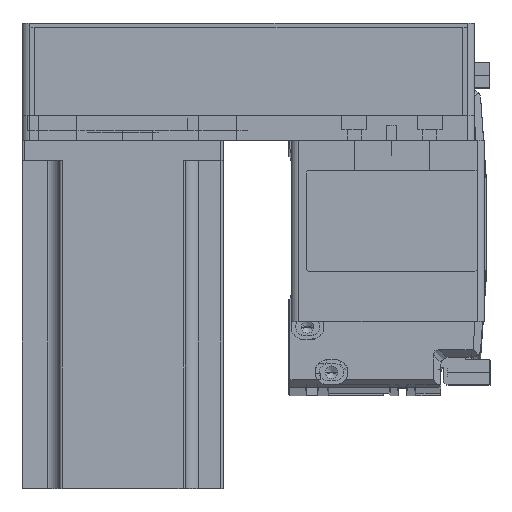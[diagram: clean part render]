
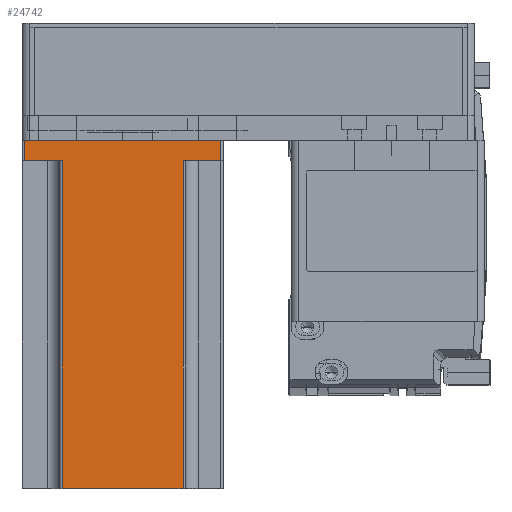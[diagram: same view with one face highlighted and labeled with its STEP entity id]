
A CAD part, top view. The second image highlights one B-rep face of the part: STEP entity #24742.
In plain terms, the highlighted planar face has unit normal (0, 0, 1) as drawn and (0, 1, 0) by its records, which use the part's own axes.
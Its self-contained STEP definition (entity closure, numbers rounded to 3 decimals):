
#1165 = VERTEX_POINT ( 'NONE', #32717 ) ;
#2403 = VERTEX_POINT ( 'NONE', #16214 ) ;
#2452 = DIRECTION ( 'NONE',  ( 0., 0., 1. ) ) ;
#2682 = ORIENTED_EDGE ( 'NONE', *, *, #18038, .F. ) ;
#2939 = LINE ( 'NONE', #48589, #38798 ) ;
#4475 = LINE ( 'NONE', #20457, #15450 ) ;
#6361 = EDGE_CURVE ( 'NONE', #41024, #17212, #44265, .T. ) ;
#7023 = VECTOR ( 'NONE', #2452, 1000. ) ;
#7033 = DIRECTION ( 'NONE',  ( 0., 0., -1. ) ) ;
#7164 = CARTESIAN_POINT ( 'NONE',  ( -24., 40., 138.3 ) ) ;
#7373 = VECTOR ( 'NONE', #43378, 1000. ) ;
#8382 = VECTOR ( 'NONE', #42072, 1000. ) ;
#14012 = CARTESIAN_POINT ( 'NONE',  ( 40., 40., 138.3 ) ) ;
#14719 = FACE_OUTER_BOUND ( 'NONE', #21049, .T. ) ;
#14998 = CARTESIAN_POINT ( 'NONE',  ( -25., 40., 8. ) ) ;
#15450 = VECTOR ( 'NONE', #43989, 1000. ) ;
#16214 = CARTESIAN_POINT ( 'NONE',  ( 39., 40., 8. ) ) ;
#17212 = VERTEX_POINT ( 'NONE', #27358 ) ;
#17989 = ORIENTED_EDGE ( 'NONE', *, *, #35261, .F. ) ;
#18038 = EDGE_CURVE ( 'NONE', #1165, #49728, #2939, .T. ) ;
#18353 = PLANE ( 'NONE',  #38776 ) ;
#18740 = DIRECTION ( 'NONE',  ( 1., 0., 0. ) ) ;
#18775 = CARTESIAN_POINT ( 'NONE',  ( 40., 40., 0. ) ) ;
#19835 = LINE ( 'NONE', #38642, #7373 ) ;
#19943 = ORIENTED_EDGE ( 'NONE', *, *, #6361, .T. ) ;
#20457 = CARTESIAN_POINT ( 'NONE',  ( 25., 40., 8. ) ) ;
#20496 = DIRECTION ( 'NONE',  ( -1., 0., 0. ) ) ;
#21028 = ORIENTED_EDGE ( 'NONE', *, *, #26795, .T. ) ;
#21049 = EDGE_LOOP ( 'NONE', ( #41289, #21028, #2682, #59773, #17989, #37034, #19943, #47163 ) ) ;
#22050 = CARTESIAN_POINT ( 'NONE',  ( 24., 40., 8. ) ) ;
#22687 = VERTEX_POINT ( 'NONE', #30720 ) ;
#22768 = CARTESIAN_POINT ( 'NONE',  ( 39., 40., 138.3 ) ) ;
#23258 = LINE ( 'NONE', #14998, #32679 ) ;
#24025 = VECTOR ( 'NONE', #7033, 1000. ) ;
#24742 = ADVANCED_FACE ( 'NONE', ( #14719 ), #18353, .F. ) ;
#26795 = EDGE_CURVE ( 'NONE', #53911, #49728, #42904, .T. ) ;
#27358 = CARTESIAN_POINT ( 'NONE',  ( -39., 40., 0. ) ) ;
#30720 = CARTESIAN_POINT ( 'NONE',  ( -39., 40., 8. ) ) ;
#31940 = DIRECTION ( 'NONE',  ( 0., 0., -1. ) ) ;
#32679 = VECTOR ( 'NONE', #52502, 1000. ) ;
#32717 = CARTESIAN_POINT ( 'NONE',  ( 24., 40., 138.3 ) ) ;
#33637 = LINE ( 'NONE', #22768, #57155 ) ;
#35261 = EDGE_CURVE ( 'NONE', #2403, #40108, #4475, .T. ) ;
#36449 = LINE ( 'NONE', #49045, #24025 ) ;
#37034 = ORIENTED_EDGE ( 'NONE', *, *, #37130, .T. ) ;
#37130 = EDGE_CURVE ( 'NONE', #2403, #41024, #33637, .T. ) ;
#37425 = CARTESIAN_POINT ( 'NONE',  ( -24., 40., 138.3 ) ) ;
#38642 = CARTESIAN_POINT ( 'NONE',  ( -39., 40., 138.3 ) ) ;
#38776 = AXIS2_PLACEMENT_3D ( 'NONE', #14012, #46765, #18740 ) ;
#38798 = VECTOR ( 'NONE', #20496, 1000. ) ;
#40108 = VERTEX_POINT ( 'NONE', #22050 ) ;
#41024 = VERTEX_POINT ( 'NONE', #55743 ) ;
#41289 = ORIENTED_EDGE ( 'NONE', *, *, #56478, .T. ) ;
#42072 = DIRECTION ( 'NONE',  ( -1., 0., 0. ) ) ;
#42904 = LINE ( 'NONE', #7164, #7023 ) ;
#43378 = DIRECTION ( 'NONE',  ( 0., 0., 1. ) ) ;
#43989 = DIRECTION ( 'NONE',  ( -1., 0., 0. ) ) ;
#44265 = LINE ( 'NONE', #18775, #8382 ) ;
#45098 = EDGE_CURVE ( 'NONE', #17212, #22687, #19835, .T. ) ;
#46173 = EDGE_CURVE ( 'NONE', #1165, #40108, #36449, .T. ) ;
#46354 = CARTESIAN_POINT ( 'NONE',  ( -24., 40., 8. ) ) ;
#46765 = DIRECTION ( 'NONE',  ( 0., -1., 0. ) ) ;
#47163 = ORIENTED_EDGE ( 'NONE', *, *, #45098, .T. ) ;
#48589 = CARTESIAN_POINT ( 'NONE',  ( 40., 40., 138.3 ) ) ;
#49045 = CARTESIAN_POINT ( 'NONE',  ( 24., 40., 138.3 ) ) ;
#49728 = VERTEX_POINT ( 'NONE', #37425 ) ;
#52502 = DIRECTION ( 'NONE',  ( 1., 0., 0. ) ) ;
#53911 = VERTEX_POINT ( 'NONE', #46354 ) ;
#55743 = CARTESIAN_POINT ( 'NONE',  ( 39., 40., 0. ) ) ;
#56478 = EDGE_CURVE ( 'NONE', #22687, #53911, #23258, .T. ) ;
#57155 = VECTOR ( 'NONE', #31940, 1000. ) ;
#59773 = ORIENTED_EDGE ( 'NONE', *, *, #46173, .T. ) ;
